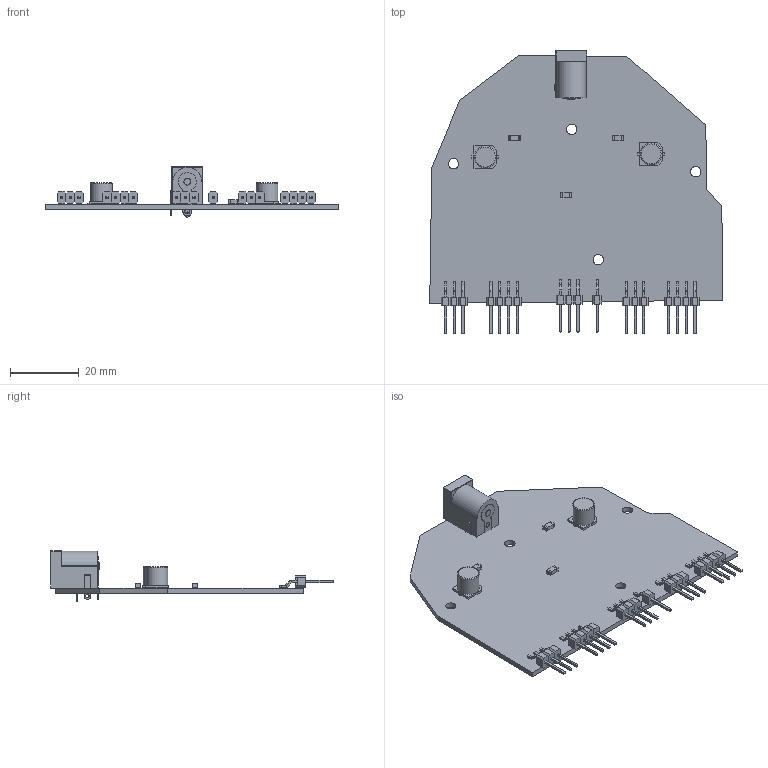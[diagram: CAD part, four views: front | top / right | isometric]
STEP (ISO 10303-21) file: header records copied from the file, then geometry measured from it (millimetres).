
FILE_DESCRIPTION(('KiCad electronic assembly'),'2;1');
FILE_NAME('MyFinalprojectboard2.step','2025-06-12T17:57:15',('Pcbnew'),( 'Kicad'),'Open CASCADE STEP processor 7.8','KiCad to STEP converter' ,'Unknown');
FILE_SCHEMA(('AUTOMOTIVE_DESIGN { 1 0 10303 214 1 1 1 1 }'));
Length unit declared in the file: millimetre
Products named in the file (21): MyFinalprojectboard2 1; Capacitor_Panasonic-EEE-FN1E101UL; ContactClone; Contact; Cylinder; Base; Header_SMD_01x03_P2.54mm_Horizontal_Male; MyFinalprojectboard2 1.2.1; MyFinalprojectboard2 1.2.2; Capacitor-1206; Body; Header_SMD_01x01_P2.54mm_Horizontal_Male; Pin; Insulation; Header_SMD_01x04_P2.54mm_Horizontal_Male; MyFinalprojectboard2 1.7.1; MyFinalprojectboard2 1.7.2; BarrelJack_Horizontal; MyFinalprojectboard2_PCB
Assembly tree (26 placements, depth 3):
  MyFinalprojectboard2 1
    Capacitor_Panasonic-EEE-FN1E101UL  x2
      ContactClone
      Contact
      Cylinder
      Base
    Header_SMD_01x03_P2.54mm_Horizontal_Male  x3
      MyFinalprojectboard2 1.2.1
      MyFinalprojectboard2 1.2.2
    Capacitor-1206  x3
      Body
      Contact
      ContactClone
    Header_SMD_01x01_P2.54mm_Horizontal_Male
      Pin
      Insulation
    Header_SMD_01x04_P2.54mm_Horizontal_Male  x2
      MyFinalprojectboard2 1.7.1
      MyFinalprojectboard2 1.7.2
    BarrelJack_Horizontal
    MyFinalprojectboard2_PCB
Bounding box: 84.9 x 82.28 x 14.6 mm (x, y, z)
Volume: 9589.4 mm3; surface area: 14729.2 mm2
Topology: 59 solids, 59 shells, 950 faces, 2035 edges, 1201 vertices
Faces by surface type: plane 873, revolution 36, cylinder 32, sphere 5, torus 2, extrusion 2
Full cylindrical faces by diameter (mm): 1 x2, 1.5 x2, 2 x4, 3 x4, 6.3 x3
Entity records: 13399 total; most frequent: CARTESIAN_POINT 2145, DIRECTION 2095, ORIENTED_EDGE 2022, EDGE_CURVE 1011, VECTOR 927, LINE 925, VERTEX_POINT 602, AXIS2_PLACEMENT_3D 576
